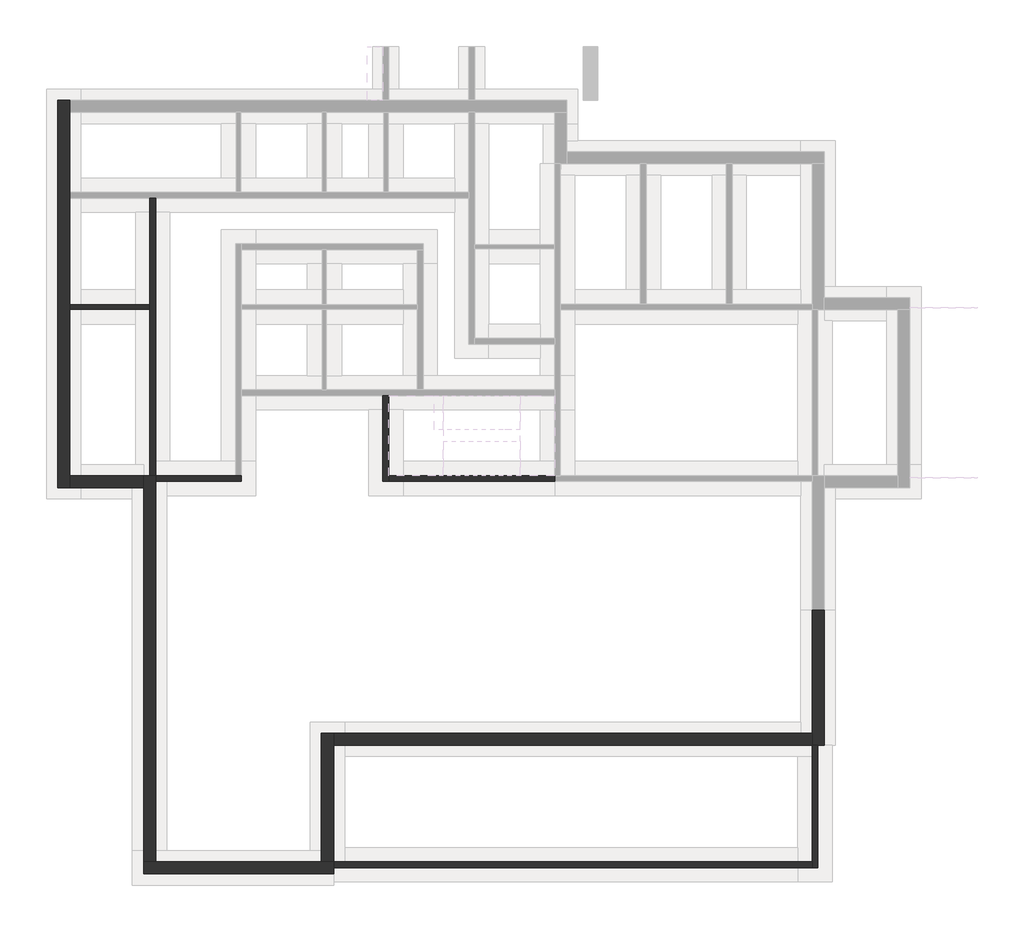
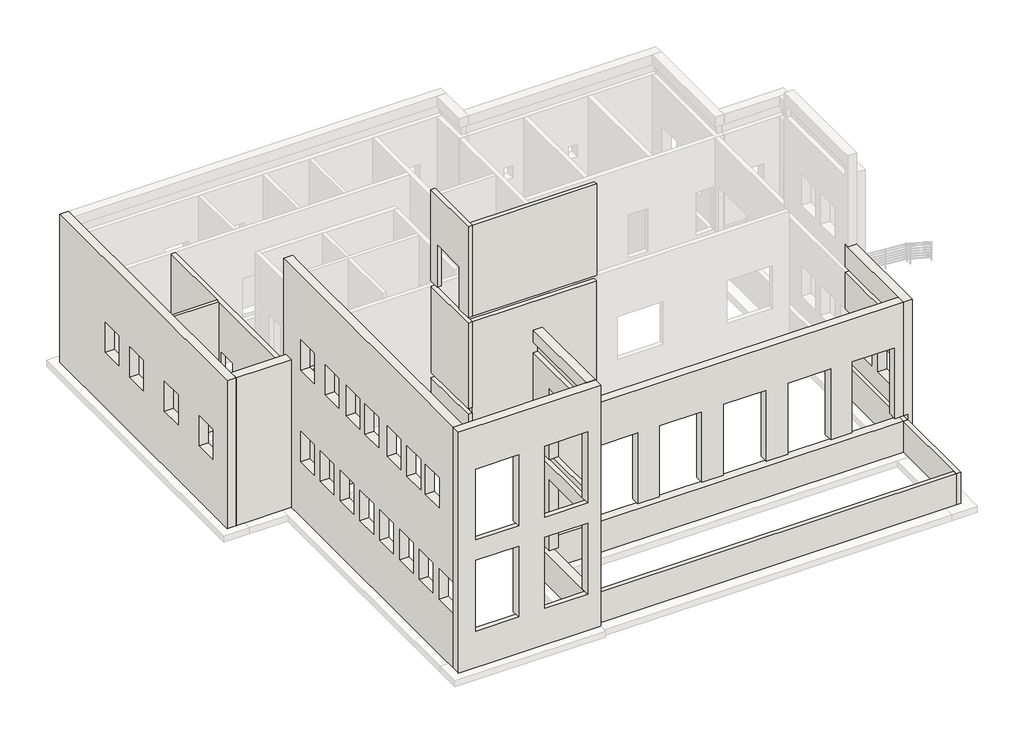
# One storey, part 1 of 5: 14 walls.
"""IFC4 building model written with IfcOpenShell, lengths in millimetres."""

from ifc_helpers import new_model, si_unit, frame, origin, place, context, project, spatial, polyline, outline, extrude, faceted_brep, element, save

model = new_model("IFC4")

# Units and contexts
model_context = context("Model", 3, world=origin())
ifc_project = project(units=[si_unit("LENGTHUNIT", "METRE", prefix="MILLI")], contexts=[model_context])

# Site, building, storey
site = spatial("IfcSite", under=ifc_project)
building = spatial("IfcBuilding", under=site)
storey = spatial("IfcBuildingStorey", under=building, Name="Фундамент", Elevation=-1800.0)

# Walls
placement = place(None, origin())
element("IfcWall", 1, ObjectType="_ЖБ-200_У-100_К-120", at=placement, inside=storey, context=model_context, shape_type="Brep", body=[
    faceted_brep([(-17307.2117644, 5372.3976828, -1800.0), (-17307.2117644, 5792.3976828, -1800.0), (-17307.2117644, 18492.3976828, -1800.0), (-17307.2117644, 18912.3976828, -1800.0), (-17307.2117644, 18912.3976828, 5500.0), (-17307.2117644, 18492.3976828, 5500.0), (-17307.2117644, 5792.3976828, 5500.0), (-17307.2117644, 5372.3976828, 5500.0), (-17307.2117644, 18692.3976828, -270.0), (-17307.2117644, 18492.3976828, -270.0), (-17307.2117644, 5792.3976828, -270.0), (-17307.2117644, 5592.3976828, -270.0), (-17307.2117644, 5592.3976828, 0.0), (-17307.2117644, 5792.3976828, 0.0), (-17307.2117644, 18492.3976828, 0.0), (-17307.2117644, 18692.3976828, 0.0), (-17307.2117644, 18692.3976828, 4500.0), (-17307.2117644, 18492.3976828, 4500.0), (-17307.2117644, 5792.3976828, 4500.0), (-17307.2117644, 5592.3976828, 4500.0), (-17307.2117644, 5592.3976828, 5015.0), (-17307.2117644, 5792.3976828, 5015.0), (-17307.2117644, 18492.3976828, 5015.0), (-17307.2117644, 18692.3976828, 5015.0), (-17307.2117644, 14142.3976828, 915.0), (-17307.2117644, 14142.3976828, 2415.0), (-17307.2117644, 15242.3976828, 2415.0), (-17307.2117644, 15242.3976828, 915.0), (-17307.2117644, 12142.3976828, 915.0), (-17307.2117644, 12142.3976828, 2415.0), (-17307.2117644, 13242.3976828, 2415.0), (-17307.2117644, 13242.3976828, 915.0), (-17307.2117644, 9342.3976828, 915.0), (-17307.2117644, 9342.3976828, 2415.0), (-17307.2117644, 10442.3976828, 2415.0), (-17307.2117644, 10442.3976828, 915.0), (-17307.2117644, 6532.3976828, 915.0), (-17307.2117644, 6532.3976828, 2415.0), (-17307.2117644, 7632.3976828, 2415.0), (-17307.2117644, 7632.3976828, 915.0), (-17727.2117644, 18912.3976828, -1800.0), (-17727.2117644, 5372.3976828, -1800.0), (-17727.2117644, 5372.3976828, 5500.0), (-17727.2117644, 18912.3976828, 5500.0), (-17727.2117644, 14142.3976828, 2415.0), (-17727.2117644, 14142.3976828, 915.0), (-17727.2117644, 15242.3976828, 915.0), (-17727.2117644, 15242.3976828, 2415.0), (-17727.2117644, 12142.3976828, 2415.0), (-17727.2117644, 12142.3976828, 915.0), (-17727.2117644, 13242.3976828, 915.0), (-17727.2117644, 13242.3976828, 2415.0), (-17727.2117644, 9342.3976828, 2415.0), (-17727.2117644, 9342.3976828, 915.0), (-17727.2117644, 10442.3976828, 915.0), (-17727.2117644, 10442.3976828, 2415.0), (-17727.2117644, 6532.3976828, 2415.0), (-17727.2117644, 6532.3976828, 915.0), (-17727.2117644, 7632.3976828, 915.0), (-17727.2117644, 7632.3976828, 2415.0), (-17507.2117644, 18692.3976828, -270.0), (-17507.2117644, 5592.3976828, -270.0), (-17507.2117644, 5592.3976828, 0.0), (-17507.2117644, 18692.3976828, 0.0), (-17507.2117644, 18692.3976828, 4500.0), (-17507.2117644, 5592.3976828, 4500.0), (-17507.2117644, 5592.3976828, 5015.0), (-17507.2117644, 18692.3976828, 5015.0)], [[[0, 1, 2, 3, 4, 5, 6, 7], [8, 9, 10, 11, 12, 13, 14, 15], [16, 17, 18, 19, 20, 21, 22, 23], [24, 25, 26, 27], [28, 29, 30, 31], [32, 33, 34, 35], [36, 37, 38, 39]], [[40, 41, 42, 43], [44, 45, 46, 47], [48, 49, 50, 51], [52, 53, 54, 55], [56, 57, 58, 59]], [[3, 2, 1, 0, 41, 40]], [[7, 6, 5, 4, 43, 42]], [[4, 3, 40, 43]], [[0, 7, 42, 41]], [[60, 61, 11, 10, 9, 8]], [[62, 63, 15, 14, 13, 12]], [[63, 60, 8, 15]], [[61, 62, 12, 11]], [[61, 60, 63, 62]], [[64, 65, 19, 18, 17, 16]], [[66, 67, 23, 22, 21, 20]], [[67, 64, 16, 23]], [[65, 64, 67, 66]], [[65, 66, 20, 19]], [[25, 24, 45, 44]], [[26, 25, 44, 47]], [[27, 26, 47, 46]], [[24, 27, 46, 45]], [[29, 28, 49, 48]], [[30, 29, 48, 51]], [[31, 30, 51, 50]], [[28, 31, 50, 49]], [[33, 32, 53, 52]], [[34, 33, 52, 55]], [[35, 34, 55, 54]], [[32, 35, 54, 53]], [[37, 36, 57, 56]], [[38, 37, 56, 59]], [[39, 38, 59, 58]], [[36, 39, 58, 57]]]),
])
element("IfcWall", 2, ObjectType="_ЖБ-200_У-100_К-120", at=placement, inside=storey, context=model_context, shape_type="Brep", body=[
    faceted_brep([(-8087.2117644, -7707.6023172, -1800.0), (-8507.2117644, -7707.6023172, -1800.0), (-14307.2117644, -7707.6023172, -1800.0), (-14727.2117644, -7707.6023172, -1800.0), (-14727.2117644, -7707.6023172, 10100.0), (-14307.2117644, -7707.6023172, 10100.0), (-8507.2117644, -7707.6023172, 10100.0), (-8087.2117644, -7707.6023172, 10100.0), (-8087.2117644, -7707.6023172, 8000.0), (-8087.2117644, -7707.6023172, 4500.0), (-8087.2117644, -7707.6023172, 3500.0), (-8087.2117644, -7707.6023172, 0.0), (-8696.4994935, -7707.6023172, 0.0), (-8696.4994935, -7707.6023172, 3500.0), (-10696.4994935, -7707.6023172, 3500.0), (-10696.4994935, -7707.6023172, 0.0), (-11917.2117644, -7707.6023172, 0.0), (-11917.2117644, -7707.6023172, 3500.0), (-13917.2117644, -7707.6023172, 3500.0), (-13917.2117644, -7707.6023172, 0.0), (-14307.2117644, -7707.6023172, 0.0), (-14507.2117644, -7707.6023172, 0.0), (-14507.2117644, -7707.6023172, -270.0), (-14307.2117644, -7707.6023172, -270.0), (-8507.2117644, -7707.6023172, -270.0), (-8087.2117644, -7707.6023172, -270.0), (-14507.2117644, -7707.6023172, 4230.0), (-14307.2117644, -7707.6023172, 4230.0), (-8507.2117644, -7707.6023172, 4230.0), (-8307.2117644, -7707.6023172, 4230.0), (-8307.2117644, -7707.6023172, 4500.0), (-8696.4994935, -7707.6023172, 4500.0), (-8696.4994935, -7707.6023172, 8000.0), (-10696.4994935, -7707.6023172, 8000.0), (-10696.4994935, -7707.6023172, 4500.0), (-11917.2117644, -7707.6023172, 4500.0), (-11917.2117644, -7707.6023172, 8000.0), (-13917.2117644, -7707.6023172, 8000.0), (-13917.2117644, -7707.6023172, 4500.0), (-14307.2117644, -7707.6023172, 4500.0), (-14507.2117644, -7707.6023172, 4500.0), (-14507.2117644, -7707.6023172, 9000.0), (-14307.2117644, -7707.6023172, 9000.0), (-8507.2117644, -7707.6023172, 9000.0), (-8307.2117644, -7707.6023172, 9000.0), (-8307.2117644, -7707.6023172, 9515.0), (-8507.2117644, -7707.6023172, 9515.0), (-14307.2117644, -7707.6023172, 9515.0), (-14507.2117644, -7707.6023172, 9515.0), (-14727.2117644, -8127.6023172, -1800.0), (-8087.2117644, -8127.6023172, -1800.0), (-8087.2117644, -8127.6023172, 10100.0), (-14727.2117644, -8127.6023172, 10100.0), (-10696.4994935, -8127.6023172, 0.0), (-10696.4994935, -8127.6023172, 3500.0), (-8696.4994935, -8127.6023172, 3500.0), (-8696.4994935, -8127.6023172, 0.0), (-13917.2117644, -8127.6023172, 0.0), (-13917.2117644, -8127.6023172, 3500.0), (-11917.2117644, -8127.6023172, 3500.0), (-11917.2117644, -8127.6023172, 0.0), (-13917.2117644, -8127.6023172, 4500.0), (-13917.2117644, -8127.6023172, 8000.0), (-11917.2117644, -8127.6023172, 8000.0), (-11917.2117644, -8127.6023172, 4500.0), (-10696.4994935, -8127.6023172, 4500.0), (-10696.4994935, -8127.6023172, 8000.0), (-8696.4994935, -8127.6023172, 8000.0), (-8696.4994935, -8127.6023172, 4500.0), (-8087.2117644, -7907.6023172, -1800.0), (-8087.2117644, -7907.6023172, -270.0), (-8087.2117644, -7907.6023172, 0.0), (-14507.2117644, -7907.6023172, -270.0), (-8696.4994935, -7907.6023172, 0.0), (-14507.2117644, -7907.6023172, 0.0), (-13917.2117644, -7907.6023172, 0.0), (-10696.4994935, -7907.6023172, 0.0), (-11917.2117644, -7907.6023172, 0.0), (-14507.2117644, -7907.6023172, 4230.0), (-8307.2117644, -7907.6023172, 4230.0), (-8307.2117644, -7907.6023172, 4500.0), (-8696.4994935, -7907.6023172, 4500.0), (-14507.2117644, -7907.6023172, 4500.0), (-13917.2117644, -7907.6023172, 4500.0), (-10696.4994935, -7907.6023172, 4500.0), (-11917.2117644, -7907.6023172, 4500.0), (-14507.2117644, -7907.6023172, 9000.0), (-8307.2117644, -7907.6023172, 9000.0), (-8307.2117644, -7907.6023172, 9515.0), (-14507.2117644, -7907.6023172, 9515.0)], [[[0, 1, 2, 3, 4, 5, 6, 7, 8, 9, 10, 11, 12, 13, 14, 15, 16, 17, 18, 19, 20, 21, 22, 23, 24, 25], [26, 27, 28, 29, 30, 31, 32, 33, 34, 35, 36, 37, 38, 39, 40], [41, 42, 43, 44, 45, 46, 47, 48]], [[49, 50, 51, 52], [53, 54, 55, 56], [57, 58, 59, 60], [61, 62, 63, 64], [65, 66, 67, 68]], [[3, 2, 1, 0, 69, 50, 49]], [[7, 6, 5, 4, 52, 51]], [[4, 3, 49, 52]], [[7, 51, 50, 69, 0, 25, 70, 71, 11, 10, 9, 8]], [[22, 72, 70, 25, 24, 23]], [[12, 11, 71, 73]], [[74, 21, 20, 19, 75]], [[16, 15, 76, 77]], [[72, 74, 75, 77, 76, 73, 71, 70]], [[74, 72, 22, 21]], [[78, 79, 29, 28, 27, 26]], [[30, 80, 81, 31]], [[82, 40, 39, 38, 83]], [[84, 85, 35, 34]], [[79, 80, 30, 29]], [[79, 78, 82, 83, 85, 84, 81, 80]], [[82, 78, 26, 40]], [[86, 87, 44, 43, 42, 41]], [[88, 89, 48, 47, 46, 45]], [[89, 86, 41, 48]], [[87, 86, 89, 88]], [[87, 88, 45, 44]], [[14, 54, 53, 76, 15]], [[54, 14, 13, 55]], [[55, 13, 12, 73, 56]], [[53, 56, 73, 76]], [[18, 58, 57, 75, 19]], [[58, 18, 17, 59]], [[59, 17, 16, 77, 60]], [[57, 60, 77, 75]], [[37, 62, 61, 83, 38]], [[62, 37, 36, 63]], [[63, 36, 35, 85, 64]], [[61, 64, 85, 83]], [[33, 66, 65, 84, 34]], [[66, 33, 32, 67]], [[67, 32, 31, 81, 68]], [[65, 68, 81, 84]]]),
])
element("IfcWall", 3, ObjectType="_ЖБ-200_У-100_К-120", at=placement, inside=storey, context=model_context, shape_type="Brep", body=[
    faceted_brep([(-14307.2117644, -7707.6023172, -1800.0), (-14307.2117644, 5792.3976828, -1800.0), (-14307.2117644, 5792.3976828, -270.0), (-14307.2117644, -7707.6023172, -270.0), (-14307.2117644, 6012.3976828, 10100.0), (-14307.2117644, 5592.3976828, 10100.0), (-14307.2117644, -7707.6023172, 10100.0), (-14307.2117644, -7707.6023172, 9515.0), (-14307.2117644, 5592.3976828, 9515.0), (-14307.2117644, 5792.3976828, 9515.0), (-14307.2117644, 5792.3976828, 9000.0), (-14307.2117644, 5592.3976828, 9000.0), (-14307.2117644, -7707.6023172, 9000.0), (-14307.2117644, -7707.6023172, 4500.0), (-14307.2117644, 5592.3976828, 4500.0), (-14307.2117644, 5592.3976828, 4230.0), (-14307.2117644, -3207.6023172, 4230.0), (-14307.2117644, -3207.6023172, 3830.0), (-14307.2117644, -3407.6023172, 3830.0), (-14307.2117644, -3407.6023172, 4230.0), (-14307.2117644, -7707.6023172, 4230.0), (-14307.2117644, -7707.6023172, 0.0), (-14307.2117644, 5792.3976828, 0.0), (-14307.2117644, 5792.3976828, 4500.0), (-14307.2117644, 6012.3976828, 4500.0), (-14307.2117644, 6012.3976828, 5015.0), (-14307.2117644, 3532.3976828, 915.0), (-14307.2117644, 3532.3976828, 2415.0), (-14307.2117644, 4632.3976828, 2415.0), (-14307.2117644, 4632.3976828, 915.0), (-14307.2117644, 1932.3976828, 915.0), (-14307.2117644, 1932.3976828, 2415.0), (-14307.2117644, 3032.3976828, 2415.0), (-14307.2117644, 3032.3976828, 915.0), (-14307.2117644, 332.3976828, 915.0), (-14307.2117644, 332.3976828, 2415.0), (-14307.2117644, 1432.3976828, 2415.0), (-14307.2117644, 1432.3976828, 915.0), (-14307.2117644, -1267.6023172, 915.0), (-14307.2117644, -1267.6023172, 2415.0), (-14307.2117644, -167.6023172, 2415.0), (-14307.2117644, -167.6023172, 915.0), (-14307.2117644, -2867.6023172, 915.0), (-14307.2117644, -2867.6023172, 2415.0), (-14307.2117644, -1767.6023172, 2415.0), (-14307.2117644, -1767.6023172, 915.0), (-14307.2117644, -4467.6023172, 915.0), (-14307.2117644, -4467.6023172, 2415.0), (-14307.2117644, -3367.6023172, 2415.0), (-14307.2117644, -3367.6023172, 915.0), (-14307.2117644, -6067.6023172, 915.0), (-14307.2117644, -6067.6023172, 2415.0), (-14307.2117644, -4967.6023172, 2415.0), (-14307.2117644, -4967.6023172, 915.0), (-14307.2117644, -6567.6023172, 5415.0), (-14307.2117644, -6567.6023172, 6915.0), (-14307.2117644, -5467.6023172, 6915.0), (-14307.2117644, -5467.6023172, 5415.0), (-14307.2117644, -5067.6023172, 5415.0), (-14307.2117644, -5067.6023172, 6915.0), (-14307.2117644, -3967.6023172, 6915.0), (-14307.2117644, -3967.6023172, 5415.0), (-14307.2117644, -3467.6023172, 5415.0), (-14307.2117644, -3467.6023172, 6915.0), (-14307.2117644, -2367.6023172, 6915.0), (-14307.2117644, -2367.6023172, 5415.0), (-14307.2117644, -1667.6023172, 5415.0), (-14307.2117644, -1667.6023172, 6915.0), (-14307.2117644, -567.6023172, 6915.0), (-14307.2117644, -567.6023172, 5415.0), (-14307.2117644, -167.6023172, 5415.0), (-14307.2117644, -167.6023172, 6915.0), (-14307.2117644, 932.3976828, 6915.0), (-14307.2117644, 932.3976828, 5415.0), (-14307.2117644, 1532.3976828, 5415.0), (-14307.2117644, 1532.3976828, 6915.0), (-14307.2117644, 2632.3976828, 6915.0), (-14307.2117644, 2632.3976828, 5415.0), (-14307.2117644, 3532.3976828, 5415.0), (-14307.2117644, 3532.3976828, 6915.0), (-14307.2117644, 4632.3976828, 6915.0), (-14307.2117644, 4632.3976828, 5415.0), (-14307.2117644, -7667.6023172, 915.0), (-14307.2117644, -7667.6023172, 2415.0), (-14307.2117644, -6567.6023172, 2415.0), (-14307.2117644, -6567.6023172, 915.0), (-14727.2117644, 5792.3976828, -1800.0), (-14727.2117644, 5372.3976828, -1800.0), (-14727.2117644, -7707.6023172, -1800.0), (-14727.2117644, -7707.6023172, 10100.0), (-14727.2117644, 6012.3976828, 10100.0), (-14727.2117644, 6012.3976828, 4500.0), (-14727.2117644, 5792.3976828, 4500.0), (-14727.2117644, 5792.3976828, 0.0), (-14727.2117644, 5592.3976828, 0.0), (-14727.2117644, 5592.3976828, -270.0), (-14727.2117644, 5792.3976828, -270.0), (-14727.2117644, 3532.3976828, 2415.0), (-14727.2117644, 3532.3976828, 915.0), (-14727.2117644, 4632.3976828, 915.0), (-14727.2117644, 4632.3976828, 2415.0), (-14727.2117644, 1932.3976828, 2415.0), (-14727.2117644, 1932.3976828, 915.0), (-14727.2117644, 3032.3976828, 915.0), (-14727.2117644, 3032.3976828, 2415.0), (-14727.2117644, 332.3976828, 2415.0), (-14727.2117644, 332.3976828, 915.0), (-14727.2117644, 1432.3976828, 915.0), (-14727.2117644, 1432.3976828, 2415.0), (-14727.2117644, -1267.6023172, 2415.0), (-14727.2117644, -1267.6023172, 915.0), (-14727.2117644, -167.6023172, 915.0), (-14727.2117644, -167.6023172, 2415.0), (-14727.2117644, -2867.6023172, 2415.0), (-14727.2117644, -2867.6023172, 915.0), (-14727.2117644, -1767.6023172, 915.0), (-14727.2117644, -1767.6023172, 2415.0), (-14727.2117644, -4467.6023172, 2415.0), (-14727.2117644, -4467.6023172, 915.0), (-14727.2117644, -3367.6023172, 915.0), (-14727.2117644, -3367.6023172, 2415.0), (-14727.2117644, -6067.6023172, 2415.0), (-14727.2117644, -6067.6023172, 915.0), (-14727.2117644, -4967.6023172, 915.0), (-14727.2117644, -4967.6023172, 2415.0), (-14727.2117644, -6567.6023172, 6915.0), (-14727.2117644, -6567.6023172, 5415.0), (-14727.2117644, -5467.6023172, 5415.0), (-14727.2117644, -5467.6023172, 6915.0), (-14727.2117644, -5067.6023172, 6915.0), (-14727.2117644, -5067.6023172, 5415.0), (-14727.2117644, -3967.6023172, 5415.0), (-14727.2117644, -3967.6023172, 6915.0), (-14727.2117644, -3467.6023172, 6915.0), (-14727.2117644, -3467.6023172, 5415.0), (-14727.2117644, -2367.6023172, 5415.0), (-14727.2117644, -2367.6023172, 6915.0), (-14727.2117644, -1667.6023172, 6915.0), (-14727.2117644, -1667.6023172, 5415.0), (-14727.2117644, -567.6023172, 5415.0), (-14727.2117644, -567.6023172, 6915.0), (-14727.2117644, -167.6023172, 6915.0), (-14727.2117644, -167.6023172, 5415.0), (-14727.2117644, 932.3976828, 5415.0), (-14727.2117644, 932.3976828, 6915.0), (-14727.2117644, 1532.3976828, 6915.0), (-14727.2117644, 1532.3976828, 5415.0), (-14727.2117644, 2632.3976828, 5415.0), (-14727.2117644, 2632.3976828, 6915.0), (-14727.2117644, 3532.3976828, 6915.0), (-14727.2117644, 3532.3976828, 5415.0), (-14727.2117644, 4632.3976828, 5415.0), (-14727.2117644, 4632.3976828, 6915.0), (-14727.2117644, -7667.6023172, 2415.0), (-14727.2117644, -7667.6023172, 915.0), (-14727.2117644, -6567.6023172, 915.0), (-14727.2117644, -6567.6023172, 2415.0), (-14507.2117644, -7707.6023172, -270.0), (-14507.2117644, -7707.6023172, 0.0), (-14507.2117644, -7707.6023172, 4230.0), (-14507.2117644, -7707.6023172, 4500.0), (-14507.2117644, -7707.6023172, 9000.0), (-14507.2117644, -7707.6023172, 9515.0), (-14507.2117644, 5592.3976828, -270.0), (-14507.2117644, 5592.3976828, 0.0), (-14507.2117644, 5592.3976828, 4230.0), (-14407.2117644, -3407.6023172, 4230.0), (-14407.2117644, -3207.6023172, 4230.0), (-14507.2117644, 5592.3976828, 4500.0), (-14507.2117644, 5792.3976828, 9000.0), (-14507.2117644, 5792.3976828, 9515.0), (-14407.2117644, -3207.6023172, 3830.0), (-14407.2117644, -3407.6023172, 3830.0)], [[[0, 1, 2, 3]], [[4, 5, 6, 7, 8, 9, 10, 11, 12, 13, 14, 15, 16, 17, 18, 19, 20, 21, 22, 23, 24, 25], [26, 27, 28, 29], [30, 31, 32, 33], [34, 35, 36, 37], [38, 39, 40, 41], [42, 43, 44, 45], [46, 47, 48, 49], [50, 51, 52, 53], [54, 55, 56, 57], [58, 59, 60, 61], [62, 63, 64, 65], [66, 67, 68, 69], [70, 71, 72, 73], [74, 75, 76, 77], [78, 79, 80, 81], [82, 83, 84, 85]], [[86, 87, 88, 89, 90, 91, 92, 93, 94, 95, 96], [97, 98, 99, 100], [101, 102, 103, 104], [105, 106, 107, 108], [109, 110, 111, 112], [113, 114, 115, 116], [117, 118, 119, 120], [121, 122, 123, 124], [125, 126, 127, 128], [129, 130, 131, 132], [133, 134, 135, 136], [137, 138, 139, 140], [141, 142, 143, 144], [145, 146, 147, 148], [149, 150, 151, 152], [153, 154, 155, 156]], [[1, 0, 88, 87, 86]], [[6, 5, 4, 90, 89]], [[6, 89, 88, 0, 3, 157, 158, 21, 20, 159, 160, 13, 12, 161, 162, 7]], [[24, 23, 92, 91]], [[1, 86, 96, 2]], [[92, 23, 22, 93]], [[95, 163, 157, 3, 2, 96]], [[158, 164, 94, 93, 22, 21]], [[163, 164, 158, 157]], [[164, 163, 95, 94]], [[15, 165, 159, 20, 19, 166, 167, 16]], [[168, 14, 13, 160]], [[168, 165, 15, 14]], [[165, 168, 160, 159]], [[90, 4, 25, 24, 91]], [[10, 169, 161, 12, 11]], [[170, 9, 8, 7, 162]], [[169, 170, 162, 161]], [[170, 169, 10, 9]], [[27, 26, 98, 97]], [[28, 27, 97, 100]], [[29, 28, 100, 99]], [[26, 29, 99, 98]], [[31, 30, 102, 101]], [[32, 31, 101, 104]], [[33, 32, 104, 103]], [[30, 33, 103, 102]], [[35, 34, 106, 105]], [[36, 35, 105, 108]], [[37, 36, 108, 107]], [[34, 37, 107, 106]], [[39, 38, 110, 109]], [[40, 39, 109, 112]], [[41, 40, 112, 111]], [[38, 41, 111, 110]], [[43, 42, 114, 113]], [[44, 43, 113, 116]], [[45, 44, 116, 115]], [[42, 45, 115, 114]], [[47, 46, 118, 117]], [[48, 47, 117, 120]], [[49, 48, 120, 119]], [[46, 49, 119, 118]], [[51, 50, 122, 121]], [[52, 51, 121, 124]], [[53, 52, 124, 123]], [[50, 53, 123, 122]], [[55, 54, 126, 125]], [[56, 55, 125, 128]], [[57, 56, 128, 127]], [[54, 57, 127, 126]], [[59, 58, 130, 129]], [[60, 59, 129, 132]], [[61, 60, 132, 131]], [[58, 61, 131, 130]], [[63, 62, 134, 133]], [[64, 63, 133, 136]], [[65, 64, 136, 135]], [[62, 65, 135, 134]], [[67, 66, 138, 137]], [[68, 67, 137, 140]], [[69, 68, 140, 139]], [[66, 69, 139, 138]], [[71, 70, 142, 141]], [[72, 71, 141, 144]], [[73, 72, 144, 143]], [[70, 73, 143, 142]], [[75, 74, 146, 145]], [[76, 75, 145, 148]], [[77, 76, 148, 147]], [[74, 77, 147, 146]], [[79, 78, 150, 149]], [[80, 79, 149, 152]], [[81, 80, 152, 151]], [[78, 81, 151, 150]], [[171, 167, 166, 172]], [[167, 171, 17, 16]], [[171, 172, 18, 17]], [[172, 166, 19, 18]], [[83, 82, 154, 153]], [[84, 83, 153, 156]], [[85, 84, 156, 155]], [[82, 85, 155, 154]]]),
])
element("IfcWall", 4, ObjectType="_ЖБ-200_У-100_К-120", at=placement, inside=storey, context=model_context, shape_type="SweptSolid", body=[
    extrude(outline(polyline([(5792.3976828, -1800.0), (5372.3976828, -1800.0), (5372.3976828, 5500.0), (5792.3976828, 5500.0), (5792.3976828, 5015.0), (5592.3976828, 5015.0), (5592.3976828, 4500.0), (5792.3976828, 4500.0), (5792.3976828, 0.0), (5592.3976828, 0.0), (5592.3976828, -270.0), (5792.3976828, -270.0), (5792.3976828, -1800.0)])), frame((-17307.2117644, 0.0, 0.0), z_axis=(1.0, 0.0, 0.0), x_axis=(0.0, 1.0, 0.0)), (0.0, 0.0, 1.0), 2580.0),
])
element("IfcWall", 5, ObjectType="_ЖБ-200", at=placement, inside=storey, context=model_context, shape_type="Brep", body=[
    faceted_brep([(-14307.2117644, 5592.3976828, -1800.0), (-11307.2117644, 5592.3976828, -1800.0), (-11307.2117644, 5592.3976828, 4230.0), (-11307.2117644, 5592.3976828, 4500.0), (-11507.2117644, 5592.3976828, 4500.0), (-14307.2117644, 5592.3976828, 4500.0), (-14307.2117644, 5592.3976828, 4230.0), (-11307.2117644, 5792.3976828, -1800.0), (-11507.2117644, 5792.3976828, -1800.0), (-14307.2117644, 5792.3976828, -1800.0), (-14307.2117644, 5792.3976828, 4500.0), (-11507.2117644, 5792.3976828, 4500.0), (-11307.2117644, 5792.3976828, 4500.0), (-11307.2117644, 5792.3976828, 4230.0)], [[[0, 1, 2, 3, 4, 5, 6]], [[7, 8, 9, 10, 11, 12, 13]], [[1, 0, 9, 8, 7]], [[5, 4, 3, 12, 11, 10]], [[5, 10, 9, 0, 6]], [[1, 7, 13, 12, 3, 2]]]),
])
element("IfcWall", 6, ObjectType="_ЖБ-200", at=placement, inside=storey, context=model_context, shape_type="Brep", body=[
    faceted_brep([(-6357.2117644, 8592.3976828, -1800.0), (-6357.2117644, 5592.3976828, -1800.0), (-6357.2117644, 5592.3976828, -270.0), (-6357.2117644, 8592.3976828, -270.0), (-6157.2117644, 5592.3976828, -1800.0), (-6157.2117644, 5792.3976828, -1800.0), (-6157.2117644, 8592.3976828, -1800.0), (-6157.2117644, 8592.3976828, -270.0), (-6157.2117644, 5592.3976828, -270.0)], [[[0, 1, 2, 3]], [[4, 5, 6, 7, 8]], [[1, 0, 6, 5, 4]], [[1, 4, 8, 2]], [[6, 0, 3, 7]], [[3, 2, 8, 7]]]),
    faceted_brep([(-6357.2117644, 5592.3976828, 9000.0), (-6357.2117644, 8592.3976828, 9000.0), (-6357.2117644, 8592.3976828, 4500.0), (-6357.2117644, 8092.3976828, 4500.0), (-6357.2117644, 8092.3976828, 6600.0), (-6357.2117644, 6292.3976828, 6600.0), (-6357.2117644, 6292.3976828, 4500.0), (-6357.2117644, 5592.3976828, 4500.0), (-6157.2117644, 8592.3976828, 9000.0), (-6157.2117644, 5792.3976828, 9000.0), (-6157.2117644, 5592.3976828, 9000.0), (-6157.2117644, 5592.3976828, 4500.0), (-6157.2117644, 5792.3976828, 4500.0), (-6157.2117644, 6292.3976828, 4500.0), (-6157.2117644, 6292.3976828, 6600.0), (-6157.2117644, 8092.3976828, 6600.0), (-6157.2117644, 8092.3976828, 4500.0), (-6157.2117644, 8592.3976828, 4500.0)], [[[0, 1, 2, 3, 4, 5, 6, 7]], [[8, 9, 10, 11, 12, 13, 14, 15, 16, 17]], [[1, 0, 10, 9, 8]], [[10, 0, 7, 11]], [[1, 8, 17, 2]], [[4, 3, 16, 15]], [[5, 4, 15, 14]], [[6, 5, 14, 13]], [[3, 2, 17, 16]], [[7, 6, 13, 12, 11]]]),
    faceted_brep([(-6357.2117644, 5592.3976828, 4230.0), (-6357.2117644, 8592.3976828, 4230.0), (-6357.2117644, 8592.3976828, 0.0), (-6357.2117644, 5592.3976828, 0.0), (-6157.2117644, 8592.3976828, 4230.0), (-6157.2117644, 5792.3976828, 4230.0), (-6157.2117644, 5592.3976828, 4230.0), (-6157.2117644, 5592.3976828, 0.0), (-6157.2117644, 8592.3976828, 0.0)], [[[0, 1, 2, 3]], [[4, 5, 6, 7, 8]], [[6, 0, 3, 7]], [[1, 4, 8, 2]], [[1, 0, 6, 5, 4]], [[3, 2, 8, 7]]]),
])
element("IfcWall", 7, ObjectType="_ЖБ-200", at=placement, inside=storey, context=model_context, shape_type="Brep", body=[
    faceted_brep([(-6157.2117644, 5592.3976828, -1800.0), (-357.2117644, 5592.3976828, -1800.0), (-357.2117644, 5592.3976828, 4230.0), (-6157.2117644, 5592.3976828, 4230.0), (-6157.2117644, 5592.3976828, 0.0), (-6157.2117644, 5592.3976828, -270.0), (-357.2117644, 5792.3976828, -1800.0), (-6157.2117644, 5792.3976828, -1800.0), (-6157.2117644, 5792.3976828, 4230.0), (-4957.2117644, 5792.3976828, 4230.0), (-4557.2117644, 5792.3976828, 4230.0), (-357.2117644, 5792.3976828, 4230.0)], [[[0, 1, 2, 3, 4, 5]], [[6, 7, 8, 9, 10, 11]], [[1, 0, 7, 6]], [[7, 0, 5, 4, 3, 8]], [[1, 6, 11, 2]], [[3, 2, 11, 10, 9, 8]]]),
    faceted_brep([(-357.2117644, 5592.3976828, 9000.0), (-6157.2117644, 5592.3976828, 9000.0), (-6157.2117644, 5592.3976828, 4500.0), (-357.2117644, 5592.3976828, 4500.0), (-6157.2117644, 5792.3976828, 9000.0), (-357.2117644, 5792.3976828, 9000.0), (-357.2117644, 5792.3976828, 4500.0), (-4557.2117644, 5792.3976828, 4500.0), (-4957.2117644, 5792.3976828, 4500.0), (-6157.2117644, 5792.3976828, 4500.0)], [[[0, 1, 2, 3]], [[4, 5, 6, 7, 8, 9]], [[1, 0, 5, 4]], [[1, 4, 9, 2]], [[5, 0, 3, 6]], [[3, 2, 9, 8, 7, 6]]]),
])
element("IfcWall", 8, ObjectType="_ЖБ-200", at=placement, inside=storey, context=model_context, shape_type="Brep", body=[
    faceted_brep([(-14307.2117644, 5792.3976828, -1800.0), (-14307.2117644, 15492.3976828, -1800.0), (-14307.2117644, 15492.3976828, 4500.0), (-14307.2117644, 5792.3976828, 4500.0), (-14307.2117644, 10542.3976828, 0.0), (-14307.2117644, 10542.3976828, 2100.0), (-14307.2117644, 11442.3976828, 2100.0), (-14307.2117644, 11442.3976828, 0.0), (-14307.2117644, 12842.3976828, 0.0), (-14307.2117644, 11942.3976828, 0.0), (-14307.2117644, 11942.3976828, 2100.0), (-14307.2117644, 12842.3976828, 2100.0), (-14507.2117644, 5792.3976828, -1800.0), (-14507.2117644, 5792.3976828, 4500.0), (-14507.2117644, 11617.3976828, 4500.0), (-14507.2117644, 11767.3976828, 4500.0), (-14507.2117644, 15492.3976828, 4500.0), (-14507.2117644, 15492.3976828, -1800.0), (-14507.2117644, 11767.3976828, -1800.0), (-14507.2117644, 11617.3976828, -1800.0), (-14507.2117644, 10542.3976828, 0.0), (-14507.2117644, 11442.3976828, 0.0), (-14507.2117644, 11442.3976828, 2100.0), (-14507.2117644, 10542.3976828, 2100.0), (-14507.2117644, 12842.3976828, 0.0), (-14507.2117644, 12842.3976828, 2100.0), (-14507.2117644, 11942.3976828, 2100.0), (-14507.2117644, 11942.3976828, 0.0)], [[[0, 1, 2, 3], [4, 5, 6, 7], [8, 9, 10, 11]], [[12, 13, 14, 15, 16, 17, 18, 19], [20, 21, 22, 23], [24, 25, 26, 27]], [[1, 0, 12, 19, 18, 17]], [[3, 2, 16, 15, 14, 13]], [[0, 3, 13, 12]], [[2, 1, 17, 16]], [[21, 20, 4, 7]], [[22, 21, 7, 6]], [[23, 22, 6, 5]], [[20, 23, 5, 4]], [[9, 8, 24, 27]], [[10, 9, 27, 26]], [[11, 10, 26, 25]], [[8, 11, 25, 24]]]),
])
element("IfcWall", 9, ObjectType="_ЖБ-150", at=placement, inside=storey, context=model_context, shape_type="SweptSolid", body=[
    extrude(outline(polyline([(-14507.2117644, 11617.3976828), (-17307.2117644, 11617.3976828), (-17307.2117644, 11767.3976828), (-14507.2117644, 11767.3976828), (-14507.2117644, 11617.3976828)])), frame((0.0, 0.0, -1800.0), z_axis=(0.0, 0.0, 1.0), x_axis=(1.0, 0.0, 0.0)), (0.0, 0.0, 1.0), 6300.0),
])
element("IfcWall", 10, ObjectType="_ЖБ-200_У-100_К-120", at=placement, inside=storey, context=model_context, shape_type="Brep", body=[
    faceted_brep([(-8087.2117644, -3417.6023172, 10100.0), (-8087.2117644, -7707.6023172, 10100.0), (-8087.2117644, -7707.6023172, 8000.0), (-8087.2117644, -4707.6023172, 8000.0), (-8087.2117644, -4707.6023172, 4500.0), (-8087.2117644, -7707.6023172, 4500.0), (-8087.2117644, -7707.6023172, 3500.0), (-8087.2117644, -4707.6023172, 3500.0), (-8087.2117644, -4707.6023172, 0.0), (-8087.2117644, -3207.6023172, 0.0), (-8087.2117644, -3207.6023172, 4230.0), (-8087.2117644, -3407.6023172, 4230.0), (-8087.2117644, -3407.6023172, 4500.0), (-8087.2117644, -3207.6023172, 4500.0), (-8087.2117644, -3207.6023172, 5600.0), (-8087.2117644, -3417.6023172, 5600.0), (-8507.2117644, -7707.6023172, 10100.0), (-8507.2117644, -3417.6023172, 10100.0), (-8507.2117644, -3417.6023172, 9515.0), (-8507.2117644, -7707.6023172, 9515.0), (-8507.2117644, -3417.6023172, 5600.0), (-8507.2117644, -3207.6023172, 5600.0), (-8507.2117644, -3207.6023172, 4500.0), (-8507.2117644, -4707.6023172, 4500.0), (-8507.2117644, -4707.6023172, 8000.0), (-8507.2117644, -7707.6023172, 8000.0), (-8507.2117644, -7707.6023172, 9000.0), (-8507.2117644, -3417.6023172, 9000.0), (-8507.2117644, -4707.6023172, 0.0), (-8507.2117644, -4707.6023172, 3500.0), (-8507.2117644, -7707.6023172, 3500.0), (-8507.2117644, -7707.6023172, 4230.0), (-8507.2117644, -3207.6023172, 4230.0), (-8507.2117644, -3207.6023172, 0.0), (-8307.2117644, -7707.6023172, 9515.0), (-8307.2117644, -7707.6023172, 9000.0), (-8307.2117644, -7707.6023172, 4500.0), (-8307.2117644, -7707.6023172, 4230.0), (-8307.2117644, -3417.6023172, 9000.0), (-8307.2117644, -3417.6023172, 9515.0), (-8307.2117644, -3407.6023172, 4230.0), (-8307.2117644, -3407.6023172, 4500.0), (-8307.2117644, -4707.6023172, 4500.0)], [[[0, 1, 2, 3, 4, 5, 6, 7, 8, 9, 10, 11, 12, 13, 14, 15]], [[16, 17, 18, 19]], [[20, 21, 22, 23, 24, 25, 26, 27]], [[28, 29, 30, 31, 32, 33]], [[1, 0, 17, 16]], [[1, 16, 19, 34, 35, 26, 25, 2]], [[30, 6, 5, 36, 37, 31]], [[17, 0, 15, 20, 27, 38, 39, 18]], [[20, 15, 14, 21]], [[21, 14, 13, 22]], [[33, 32, 10, 9]], [[7, 29, 28, 8]], [[29, 7, 6, 30]], [[9, 8, 28, 33]], [[37, 40, 11, 10, 32, 31]], [[12, 41, 42, 23, 22, 13]], [[40, 41, 12, 11]], [[41, 40, 37, 36, 42]], [[35, 38, 27, 26]], [[39, 34, 19, 18]], [[38, 35, 34, 39]], [[3, 24, 23, 42, 4]], [[24, 3, 2, 25]], [[5, 4, 42, 36]]]),
    faceted_brep([(-8087.2117644, -7707.6023172, -1800.0), (-8087.2117644, -3627.6023172, -1800.0), (-8087.2117644, -3207.6023172, -1800.0), (-8087.2117644, -3207.6023172, -270.0), (-8087.2117644, -7707.6023172, -270.0), (-8507.2117644, -3207.6023172, -1800.0), (-8507.2117644, -7707.6023172, -1800.0), (-8507.2117644, -7707.6023172, -270.0), (-8507.2117644, -3207.6023172, -270.0)], [[[0, 1, 2, 3, 4]], [[5, 6, 7, 8]], [[2, 1, 0, 6, 5]], [[6, 0, 4, 7]], [[2, 5, 8, 3]], [[4, 3, 8, 7]]]),
])
element("IfcWall", 11, ObjectType="_ЖБ-200_У-100_К-120", at=placement, inside=storey, context=model_context, shape_type="Brep", body=[
    faceted_brep([(-8087.2117644, -3627.6023172, -1800.0), (8642.7882356, -3627.6023172, -1800.0), (8642.7882356, -3627.6023172, -270.0), (-8087.2117644, -3627.6023172, -270.0), (8642.7882356, -3207.6023172, -1800.0), (-8087.2117644, -3207.6023172, -1800.0), (-8087.2117644, -3207.6023172, -270.0), (8642.7882356, -3207.6023172, -270.0)], [[[0, 1, 2, 3]], [[4, 5, 6, 7]], [[1, 0, 5, 4]], [[1, 4, 7, 2]], [[5, 0, 3, 6]], [[7, 6, 3, 2]]]),
    faceted_brep([(8642.7882356, -3627.6023172, 5600.0), (-8087.2117644, -3627.6023172, 5600.0), (-8087.2117644, -3627.6023172, 0.0), (-5757.2117644, -3627.6023172, 0.0), (-5757.2117644, -3627.6023172, 3500.0), (-3757.2117644, -3627.6023172, 3500.0), (-3757.2117644, -3627.6023172, 0.0), (-2757.2117644, -3627.6023172, 0.0), (-2757.2117644, -3627.6023172, 3500.0), (-757.2117644, -3627.6023172, 3500.0), (-757.2117644, -3627.6023172, 0.0), (242.7882356, -3627.6023172, 0.0), (242.7882356, -3627.6023172, 3500.0), (2242.7882356, -3627.6023172, 3500.0), (2242.7882356, -3627.6023172, 0.0), (3242.7882356, -3627.6023172, 0.0), (3242.7882356, -3627.6023172, 3500.0), (5242.7882356, -3627.6023172, 3500.0), (5242.7882356, -3627.6023172, 0.0), (6242.7882356, -3627.6023172, 0.0), (6242.7882356, -3627.6023172, 3500.0), (8242.7882356, -3627.6023172, 3500.0), (8242.7882356, -3627.6023172, 0.0), (8642.7882356, -3627.6023172, 0.0), (-8087.2117644, -3207.6023172, 5600.0), (8642.7882356, -3207.6023172, 5600.0), (8642.7882356, -3207.6023172, 4500.0), (-8087.2117644, -3207.6023172, 4500.0), (6242.7882356, -3207.6023172, 3500.0), (6242.7882356, -3207.6023172, 0.0), (5242.7882356, -3207.6023172, 0.0), (5242.7882356, -3207.6023172, 3500.0), (3242.7882356, -3207.6023172, 3500.0), (3242.7882356, -3207.6023172, 0.0), (2242.7882356, -3207.6023172, 0.0), (2242.7882356, -3207.6023172, 3500.0), (242.7882356, -3207.6023172, 3500.0), (242.7882356, -3207.6023172, 0.0), (-757.2117644, -3207.6023172, 0.0), (-757.2117644, -3207.6023172, 3500.0), (-2757.2117644, -3207.6023172, 3500.0), (-2757.2117644, -3207.6023172, 0.0), (-3757.2117644, -3207.6023172, 0.0), (-3757.2117644, -3207.6023172, 3500.0), (-5757.2117644, -3207.6023172, 3500.0), (-5757.2117644, -3207.6023172, 0.0), (-8087.2117644, -3207.6023172, 0.0), (-8087.2117644, -3207.6023172, 4230.0), (8642.7882356, -3207.6023172, 4230.0), (8642.7882356, -3207.6023172, 0.0), (8242.7882356, -3207.6023172, 0.0), (8242.7882356, -3207.6023172, 3500.0), (-8087.2117644, -3417.6023172, 5600.0), (8642.7882356, -3407.6023172, 4230.0), (8642.7882356, -3407.6023172, 4500.0), (-8087.2117644, -3407.6023172, 4500.0), (-8087.2117644, -3407.6023172, 4230.0)], [[[0, 1, 2, 3, 4, 5, 6, 7, 8, 9, 10, 11, 12, 13, 14, 15, 16, 17, 18, 19, 20, 21, 22, 23]], [[24, 25, 26, 27]], [[28, 29, 30, 31, 32, 33, 34, 35, 36, 37, 38, 39, 40, 41, 42, 43, 44, 45, 46, 47, 48, 49, 50, 51]], [[1, 0, 25, 24, 52]], [[25, 0, 23, 49, 48, 53, 54, 26]], [[1, 52, 24, 27, 55, 56, 47, 46, 2]], [[28, 20, 19, 29]], [[20, 28, 51, 21]], [[21, 51, 50, 22]], [[46, 45, 3, 2]], [[50, 49, 23, 22]], [[29, 19, 18, 30]], [[15, 14, 34, 33]], [[11, 10, 38, 37]], [[7, 6, 42, 41]], [[56, 53, 48, 47]], [[54, 55, 27, 26]], [[53, 56, 55, 54]], [[32, 16, 15, 33]], [[16, 32, 31, 17]], [[17, 31, 30, 18]], [[36, 12, 11, 37]], [[12, 36, 35, 13]], [[13, 35, 34, 14]], [[40, 8, 7, 41]], [[8, 40, 39, 9]], [[9, 39, 38, 10]], [[44, 4, 3, 45]], [[4, 44, 43, 5]], [[5, 43, 42, 6]]]),
])
element("IfcWall", 12, ObjectType="_ЖБ-200", at=placement, inside=storey, context=model_context, shape_type="Brep", body=[
    faceted_brep([(8642.7882356, -3627.6023172, -1800.0), (8642.7882356, -7707.6023172, -1800.0), (8642.7882356, -7907.6023172, -1800.0), (8642.7882356, -7907.6023172, -270.0), (8642.7882356, -7707.6023172, -270.0), (8642.7882356, -3627.6023172, -270.0), (8842.7882356, -3627.6023172, -1800.0), (8842.7882356, -3627.6023172, -270.0), (8842.7882356, -7907.6023172, -270.0), (8842.7882356, -7907.6023172, -1800.0)], [[[0, 1, 2, 3, 4, 5]], [[6, 7, 8, 9]], [[2, 1, 0, 6, 9]], [[0, 5, 7, 6]], [[3, 2, 9, 8]], [[5, 4, 3, 8, 7]]]),
])
element("IfcWall", 13, ObjectType="_ЖБ-200", at=placement, inside=storey, context=model_context, shape_type="SweptSolid", body=[
    extrude(outline(polyline([(-8087.2117644, -7707.6023172), (8642.7882356, -7707.6023172), (8642.7882356, -7907.6023172), (-8087.2117644, -7907.6023172), (-8087.2117644, -7707.6023172)])), frame((0.0, 0.0, -1800.0), z_axis=(0.0, 0.0, 1.0), x_axis=(1.0, 0.0, 0.0)), (0.0, 0.0, 1.0), 1530.0),
])
element("IfcWall", 14, ObjectType="_ЖБ-200_У-100_К-120", at=placement, inside=storey, context=model_context, shape_type="Brep", body=[
    faceted_brep([(8642.7882356, 1082.3976828, -1800.0), (8642.7882356, -3207.6023172, -1800.0), (8642.7882356, -3627.6023172, -1800.0), (8642.7882356, -3627.6023172, -270.0), (8642.7882356, -3207.6023172, -270.0), (8642.7882356, 1082.3976828, -270.0), (8642.7882356, -3627.6023172, 5600.0), (8642.7882356, -3207.6023172, 5600.0), (8642.7882356, 872.3976828, 5600.0), (8642.7882356, 1082.3976828, 5600.0), (8642.7882356, 1082.3976828, 4500.0), (8642.7882356, 872.3976828, 4500.0), (8642.7882356, -3207.6023172, 4500.0), (8642.7882356, -3407.6023172, 4500.0), (8642.7882356, -3407.6023172, 4230.0), (8642.7882356, -3207.6023172, 4230.0), (8642.7882356, 1082.3976828, 4230.0), (8642.7882356, 1082.3976828, 2415.0), (8642.7882356, 332.3976828, 2415.0), (8642.7882356, 332.3976828, 915.0), (8642.7882356, 1082.3976828, 915.0), (8642.7882356, 1082.3976828, 0.0), (8642.7882356, -3207.6023172, 0.0), (8642.7882356, -3627.6023172, 0.0), (8642.7882356, -1567.6023172, 915.0), (8642.7882356, -1567.6023172, 2415.0), (8642.7882356, -2667.6023172, 2415.0), (8642.7882356, -2667.6023172, 915.0), (8642.7882356, 32.3976828, 915.0), (8642.7882356, 32.3976828, 2415.0), (8642.7882356, -1067.6023172, 2415.0), (8642.7882356, -1067.6023172, 915.0), (9062.7882356, -3627.6023172, -1800.0), (9062.7882356, 1082.3976828, -1800.0), (9062.7882356, 1082.3976828, 915.0), (9062.7882356, 332.3976828, 915.0), (9062.7882356, 332.3976828, 2415.0), (9062.7882356, 1082.3976828, 2415.0), (9062.7882356, 1082.3976828, 5600.0), (9062.7882356, 872.3976828, 5600.0), (9062.7882356, -3627.6023172, 5600.0), (9062.7882356, -1567.6023172, 2415.0), (9062.7882356, -1567.6023172, 915.0), (9062.7882356, -2667.6023172, 915.0), (9062.7882356, -2667.6023172, 2415.0), (9062.7882356, 32.3976828, 2415.0), (9062.7882356, 32.3976828, 915.0), (9062.7882356, -1067.6023172, 915.0), (9062.7882356, -1067.6023172, 2415.0), (8842.7882356, -3627.6023172, -1800.0), (8842.7882356, -3627.6023172, 0.0), (8842.7882356, -3627.6023172, -270.0), (8842.7882356, 1082.3976828, 4230.0), (8842.7882356, 1082.3976828, 4500.0), (8842.7882356, 1082.3976828, -270.0), (8842.7882356, 1082.3976828, 0.0), (8842.7882356, -3407.6023172, 4230.0), (8842.7882356, -3407.6023172, 4500.0)], [[[0, 1, 2, 3, 4, 5]], [[6, 7, 8, 9, 10, 11, 12, 13, 14, 15, 16, 17, 18, 19, 20, 21, 22, 23], [24, 25, 26, 27], [28, 29, 30, 31]], [[32, 33, 34, 35, 36, 37, 38, 39, 40], [41, 42, 43, 44], [45, 46, 47, 48]], [[2, 1, 0, 33, 32, 49]], [[9, 8, 7, 6, 40, 39, 38]], [[2, 49, 32, 40, 6, 23, 50, 51, 3]], [[9, 38, 37, 17, 16, 52, 53, 10]], [[33, 0, 5, 54, 55, 21, 20, 34]], [[5, 4, 3, 51, 54]], [[23, 22, 21, 55, 50]], [[55, 54, 51, 50]], [[56, 52, 16, 15, 14]], [[53, 57, 13, 12, 11, 10]], [[52, 56, 57, 53]], [[57, 56, 14, 13]], [[25, 24, 42, 41]], [[26, 25, 41, 44]], [[27, 26, 44, 43]], [[24, 27, 43, 42]], [[29, 28, 46, 45]], [[30, 29, 45, 48]], [[31, 30, 48, 47]], [[28, 31, 47, 46]], [[36, 18, 17, 37]], [[18, 36, 35, 19]], [[19, 35, 34, 20]]]),
])

save(model, "model.ifc")
